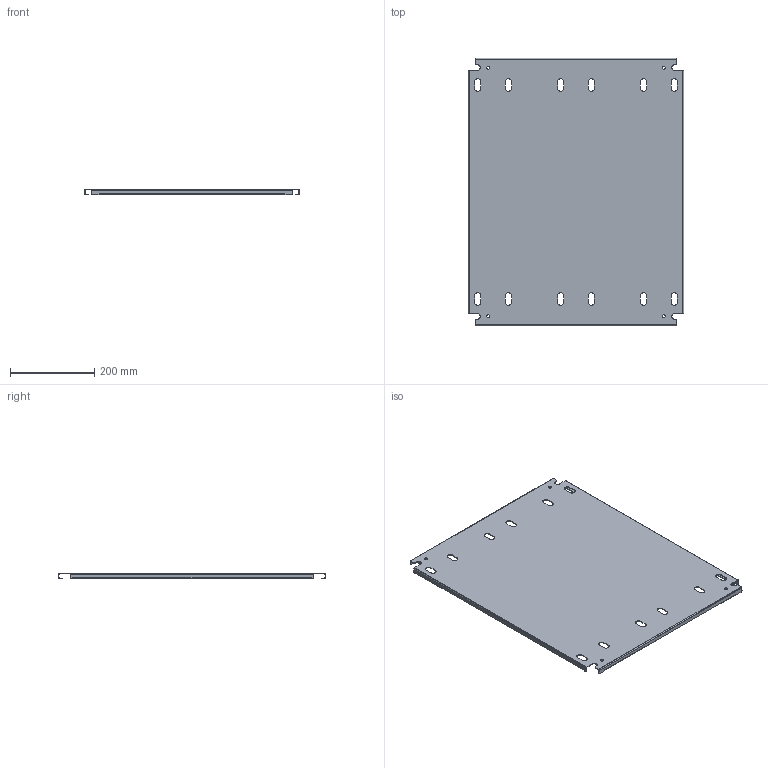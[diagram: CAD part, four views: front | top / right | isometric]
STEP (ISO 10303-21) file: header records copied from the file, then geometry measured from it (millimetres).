
FILE_DESCRIPTION(/* description */ ('1412BTCU 20.125" x 65" Inner Panel'),/* implementation_level */ '2;1');
FILE_NAME(/* name */ 'C:\Vault_Workspace\Inventor_Dwg\BoxCad\Result\1412BTCU081603DT\e-mail\3D\1412BTCU081603DTIP1.stp',/* time_stamp */ '2022-10-21T17:02:02-04:00',/* author */ ('BoxCad'),/* organization */ (''),/* preprocessor_version */ 'ST-DEVELOPER v18.1',/* originating_system */ 'Autodesk Inventor 2020',/* authorisation */ '');
FILE_SCHEMA (('AUTOMOTIVE_DESIGN { 1 0 10303 214 3 1 1 }'));
Length unit declared in the file: inch
Products named in the file (2): 1412BTCU081603DTIP1; 1412BTCU081603DTIP1-P
Assembly tree (1 placements, depth 2):
  1412BTCU081603DTIP1
    1412BTCU081603DTIP1-P
Bounding box: 511.18 x 635 x 13 mm (x, y, z)
Volume: 615142.9 mm3; surface area: 718411.5 mm2
Topology: 1 solids, 1 shells, 158 faces, 468 edges, 312 vertices
Faces by surface type: plane 90, cylinder 68
Full cylindrical faces by diameter (mm): 7.366 x4
Entity records: 5441 total; most frequent: CARTESIAN_POINT 941, ORIENTED_EDGE 936, DIRECTION 926, EDGE_CURVE 468, LINE 332, VECTOR 332, VERTEX_POINT 312, AXIS2_PLACEMENT_3D 297
